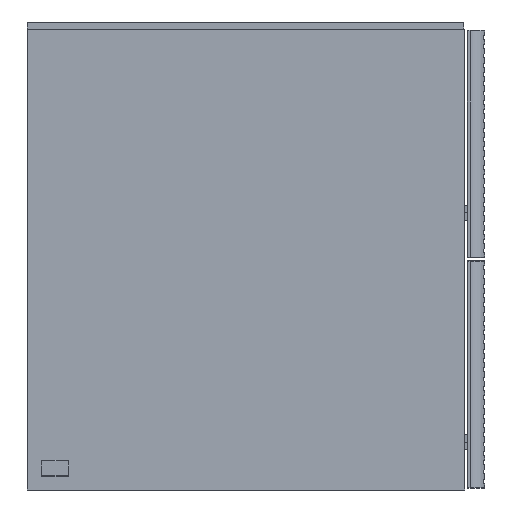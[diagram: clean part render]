
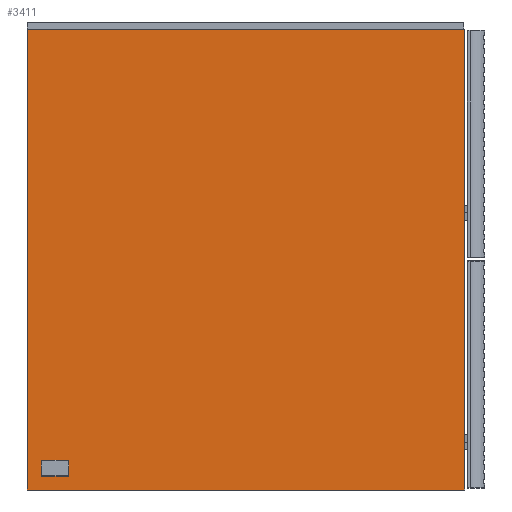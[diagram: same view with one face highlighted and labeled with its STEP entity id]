
A CAD part, left-side view. The second image highlights one B-rep face of the part: STEP entity #3411.
In plain terms, the highlighted planar face has unit normal (-1, 0, 0).
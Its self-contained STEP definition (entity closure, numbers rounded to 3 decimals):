
#3338=CARTESIAN_POINT('',(10076.952,-151.035,1348.0));
#3339=VERTEX_POINT('',#3338);
#3346=CARTESIAN_POINT('',(10076.952,-622.035,1348.0));
#3347=VERTEX_POINT('',#3346);
#3348=CARTESIAN_POINT('',(10076.952,-151.035,1348.0));
#3349=DIRECTION('',(0.0,-1.0,0.0));
#3350=VECTOR('',#3349,471.0);
#3351=LINE('',#3348,#3350);
#3352=EDGE_CURVE('',#3339,#3347,#3351,.T.);
#3370=CARTESIAN_POINT('',(10076.952,-622.035,852.0));
#3371=VERTEX_POINT('',#3370);
#3372=CARTESIAN_POINT('',(10076.952,-622.035,1348.0));
#3373=DIRECTION('',(0.0,0.0,-1.0));
#3374=VECTOR('',#3373,496.);
#3375=LINE('',#3372,#3374);
#3376=EDGE_CURVE('',#3347,#3371,#3375,.T.);
#3388=CARTESIAN_POINT('',(10076.952,-386.535,851.999));
#3389=DIRECTION('',(-1.0,0.0,0.0));
#3390=DIRECTION('',(0.0,0.0,1.0));
#3391=AXIS2_PLACEMENT_3D('',#3388,#3389,#3390);
#3392=PLANE('',#3391);
#3393=ORIENTED_EDGE('',*,*,#3376,.F.);
#3394=ORIENTED_EDGE('',*,*,#3352,.F.);
#3395=CARTESIAN_POINT('',(10076.952,-151.035,852.0));
#3396=VERTEX_POINT('',#3395);
#3397=CARTESIAN_POINT('',(10076.952,-151.035,852.0));
#3398=DIRECTION('',(0.0,0.0,1.0));
#3399=VECTOR('',#3398,496.0);
#3400=LINE('',#3397,#3399);
#3401=EDGE_CURVE('',#3396,#3339,#3400,.T.);
#3402=ORIENTED_EDGE('',*,*,#3401,.F.);
#3403=CARTESIAN_POINT('',(10076.952,-151.035,852.0));
#3404=DIRECTION('',(0.0,-1.0,0.0));
#3405=VECTOR('',#3404,471.0);
#3406=LINE('',#3403,#3405);
#3407=EDGE_CURVE('',#3396,#3371,#3406,.T.);
#3408=ORIENTED_EDGE('',*,*,#3407,.T.);
#3409=EDGE_LOOP('',(#3393,#3394,#3402,#3408));
#3410=FACE_OUTER_BOUND('',#3409,.T.);
#3411=ADVANCED_FACE('',(#3410),#3392,.T.);
